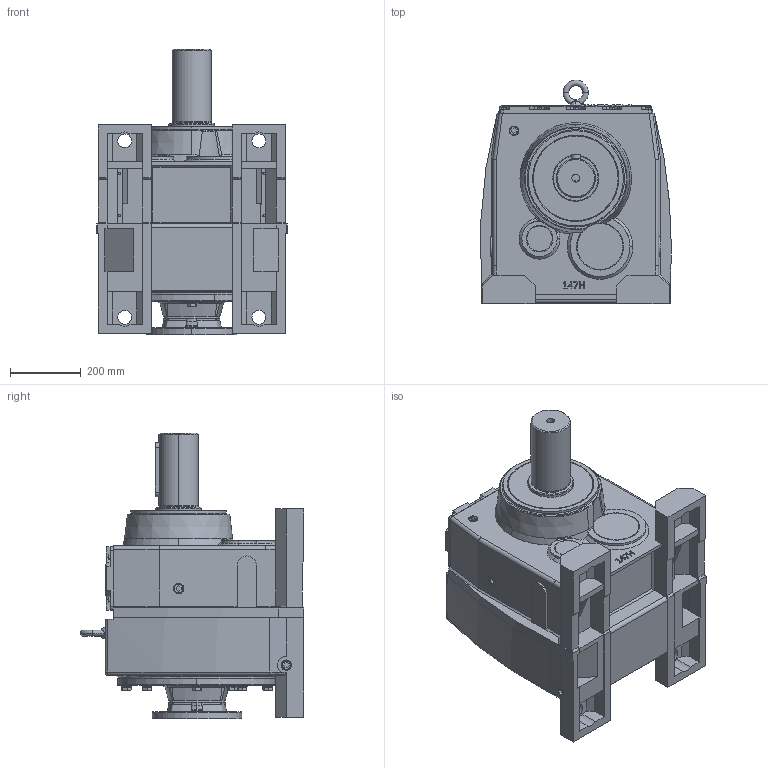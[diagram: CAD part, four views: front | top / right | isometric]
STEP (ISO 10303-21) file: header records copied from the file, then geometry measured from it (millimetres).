
FILE_DESCRIPTION (( 'STEP AP203' ), '1' );
FILE_NAME ('WINL147-254-6TC.STEP', '2013-09-26T10:30:11', ( 'User' ), ( 'Chenta' ), 'SwSTEP 2.0', 'SolidWorks 2011', '' );
FILE_SCHEMA (( 'CONFIG_CONTROL_DESIGN' ));
Length unit declared in the file: millimetre
Products named in the file (1): WINL147-254-6TC
Bounding box: 540.11 x 634 x 810 mm (x, y, z)
Surface area: 2274351.5 mm2 (no closed solid volume)
Topology: 0 solids, 60 shells, 992 faces, 2920 edges, 1948 vertices
Faces by surface type: plane 578, cylinder 181, cone 167, torus 39, bspline 25, sphere 2
Entity records: 37505 total; most frequent: CARTESIAN_POINT 11549, DIRECTION 5253, ORIENTED_EDGE 5115, EDGE_CURVE 2912, VERTEX_POINT 1948, LINE 1775, VECTOR 1775, AXIS2_PLACEMENT_3D 1739
